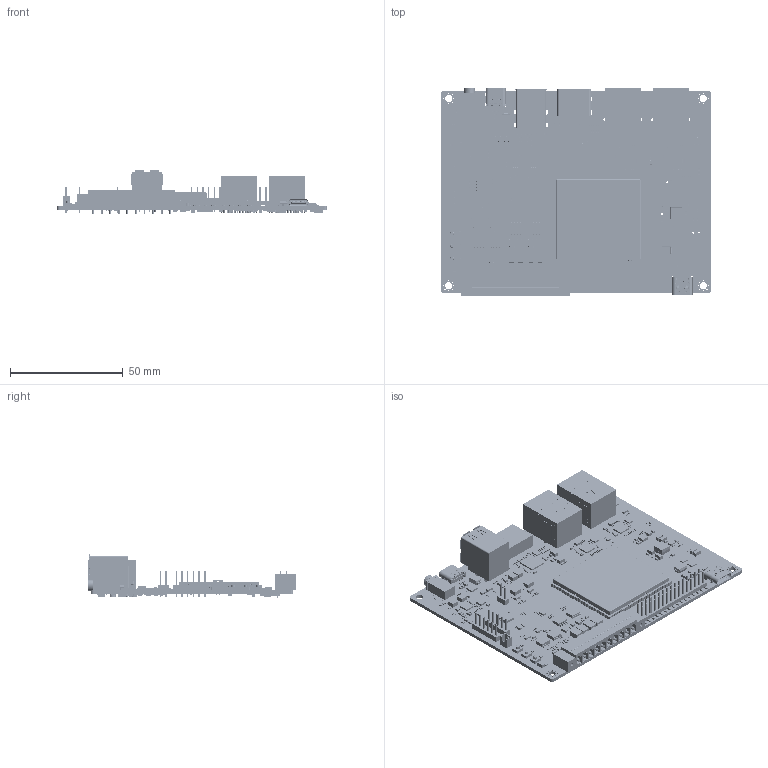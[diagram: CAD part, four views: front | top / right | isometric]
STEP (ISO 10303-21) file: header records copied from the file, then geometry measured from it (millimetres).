
FILE_DESCRIPTION((''),'2;1');
FILE_NAME('MYB-YR3506-V10_ASM','2025-02-21T15:07:39',('MYIR'),(''),'CREO PARAMETRIC BY PTC INC, 2023073','CREO PARAMETRIC BY PTC INC, 2023073','');
FILE_SCHEMA(('AUTOMOTIVE_DESIGN { 1 0 10303 214 1 1 1 1 }'));
Products named in the file (145): MYB-YR3506-V10; 20401-80111; 20401-80101; 20704-00018; 20701-00054; 21103-00005; R0402; 20901-80021; 20401-00102; C0402; C1206; 20401-00103; 20401-80102; 20401-00099; 20401-80262; 20403-00006; 20701-00028; 20701-00064; 20701-00027; 20701-00060; 20704-00019; 20801-00016; 21108-00004; 21101-00078; 21116-00006; 21101-00040; 21101-00041; 21101-00051; 20501-00020; 20702-00005; 20301-00225; 20301-00290; R0603; 20301-00203; 20301-00208; 20301-00277; 20301-00206; 20301-80358; 20301-00191; 20301-00254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
Assembly tree (669 placements, depth 4):
  MYB-YR3506-V10_ASM
    MYB-YR3506-V10
    20401-80111  x41
    20401-80101  x2
    20704-00018
    20701-00054
    21103-00005
    R0402  x37
    20901-80021
    20401-00102  x5
    C0402  x4
    C1206  x2
    20401-00103
    20401-80102  x3
    20401-00099  x2
    20401-80262  x2
    20403-00006  x6
    20701-00028  x2
    20701-00064  x4
    20701-00027  x4
    20701-00060  x2
    20704-00019
    20801-00016  x2
    21108-00004
    21101-00078
    21116-00006
    21101-00040
    21101-00041  x2
    21101-00051
    20501-00020
    20702-00005  x3
    20301-00225
    20301-00290  x4
    R0603  x2
    20301-00203
    20301-00208
    20301-00277  x3
    20301-00206  x2
    20301-80358  x2
    20301-00191
    20301-00254  x2
    20301-00285
    R1206  x2
    20301-00291
    20301-00248
    20301-00215  x4
    20301-00255  x4
    20115-80094
    20115-80039  x2
    20107-00100  x2
    20107-00093
    20105-00028
    20107-00089
    20107-00119  x2
    20105-00032
    20103-00069
    20103-80058  x2
    20115-80081
    20901-00035
    20902-00016
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Bounding box: 120 x 92.21 x 19.66 mm (x, y, z)
Volume: 34697.3 mm3; surface area: 52275.9 mm2
Topology: 697 solids, 722 shells, 21311 faces, 75895 edges, 69969 vertices
Faces by surface type: plane 17486, cylinder 2068, sphere 1256, bspline 176, cone 131, extrusion 118, torus 76
Entity records: 685533 total; most frequent: CARTESIAN_POINT 97457, DIRECTION 94170, ORIENTED_EDGE 60656, PRESENTATION_STYLE_ASSIGNMENT 42308, STYLED_ITEM 41922, CURVE_STYLE 38362, VECTOR 34218, LINE 34159
